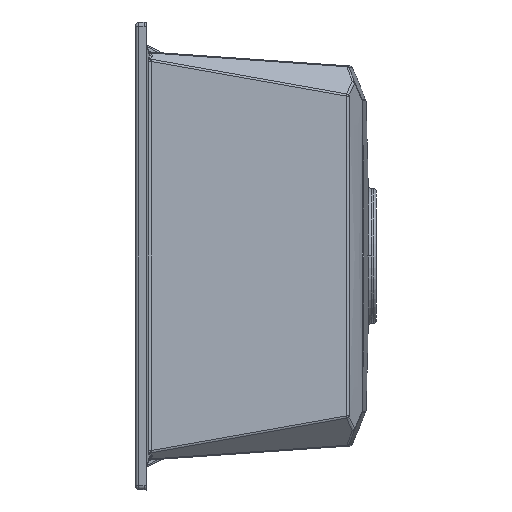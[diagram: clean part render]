
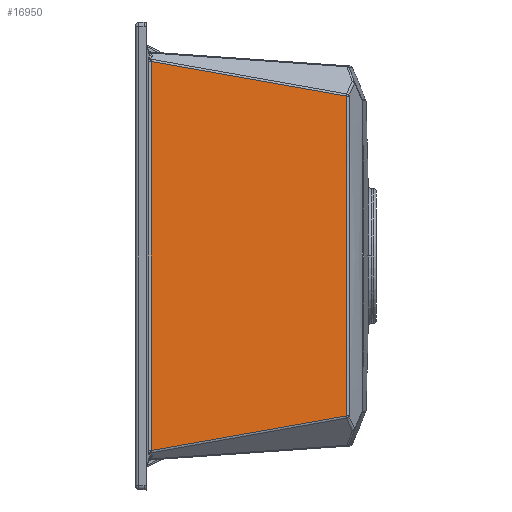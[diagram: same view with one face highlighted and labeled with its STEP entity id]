
A CAD part, left-side view. The second image highlights one B-rep face of the part: STEP entity #16950.
In plain terms, the highlighted planar face has unit normal (-0.998, -0.07, 0).
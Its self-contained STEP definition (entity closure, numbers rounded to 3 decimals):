
#155 = ORIENTED_EDGE ( 'NONE', *, *, #25490, .T. ) ;
#826 = CARTESIAN_POINT ( 'NONE',  ( 40.73, -186.634, -118.437 ) ) ;
#1353 = CARTESIAN_POINT ( 'NONE',  ( 40.73, -186.634, -316.563 ) ) ;
#1651 = B_SPLINE_CURVE_WITH_KNOTS ( 'NONE', 3,
 ( #20614, #1353, #3845, #7053, #826, #20255 ),
 .UNSPECIFIED., .F., .F.,
 ( 4, 2, 4 ),
 ( 0., 0.149, 0.297 ),
 .UNSPECIFIED. ) ;
#1654 = DIRECTION ( 'NONE',  ( -0.069, 0.982, 0.174 ) ) ;
#3845 = CARTESIAN_POINT ( 'NONE',  ( 40.762, -187.085, -267.032 ) ) ;
#4207 = CARTESIAN_POINT ( 'NONE',  ( 27.028, 9.314, -400.726 ) ) ;
#5357 = VERTEX_POINT ( 'NONE', #7572 ) ;
#5640 = VERTEX_POINT ( 'NONE', #6821 ) ;
#6821 = CARTESIAN_POINT ( 'NONE',  ( 40.681, -185.923, -366.091 ) ) ;
#6823 = FACE_OUTER_BOUND ( 'NONE', #16687, .T. ) ;
#7053 = CARTESIAN_POINT ( 'NONE',  ( 40.762, -187.085, -167.968 ) ) ;
#7572 = CARTESIAN_POINT ( 'NONE',  ( 27.994, -4.492, -398.277 ) ) ;
#8094 = DIRECTION ( 'NONE',  ( 0., 0., -1. ) ) ;
#11124 = ORIENTED_EDGE ( 'NONE', *, *, #27879, .T. ) ;
#12842 = CARTESIAN_POINT ( 'NONE',  ( 27.994, -4.492, -36.723 ) ) ;
#14351 = CARTESIAN_POINT ( 'NONE',  ( 40.681, -185.923, -68.909 ) ) ;
#16687 = EDGE_LOOP ( 'NONE', ( #155, #17287, #17903, #11124 ) ) ;
#16950 = ADVANCED_FACE ( 'NONE', ( #6823 ), #17691, .T. ) ;
#17174 = CARTESIAN_POINT ( 'NONE',  ( 27.019, 9.442, -400. ) ) ;
#17287 = ORIENTED_EDGE ( 'NONE', *, *, #34098, .T. ) ;
#17691 = PLANE ( 'NONE',  #29515 ) ;
#17865 = DIRECTION ( 'NONE',  ( -0.998, -0.07, 0. ) ) ;
#17903 = ORIENTED_EDGE ( 'NONE', *, *, #33588, .T. ) ;
#20255 = CARTESIAN_POINT ( 'NONE',  ( 40.681, -185.923, -68.909 ) ) ;
#20572 = CARTESIAN_POINT ( 'NONE',  ( 31.398, -53.167, -45.358 ) ) ;
#20614 = CARTESIAN_POINT ( 'NONE',  ( 40.681, -185.923, -366.091 ) ) ;
#20967 = VECTOR ( 'NONE', #8094, 1000. ) ;
#20984 = LINE ( 'NONE', #4207, #25432 ) ;
#21472 = LINE ( 'NONE', #26483, #20967 ) ;
#21673 = VERTEX_POINT ( 'NONE', #14351 ) ;
#23680 = VERTEX_POINT ( 'NONE', #12842 ) ;
#25432 = VECTOR ( 'NONE', #29037, 1000. ) ;
#25490 = EDGE_CURVE ( 'NONE', #5357, #5640, #20984, .T. ) ;
#25556 = DIRECTION ( 'NONE',  ( 0.07, -0.998, 0. ) ) ;
#26483 = CARTESIAN_POINT ( 'NONE',  ( 27.994, -4.492, -399.898 ) ) ;
#27879 = EDGE_CURVE ( 'NONE', #23680, #5357, #21472, .T. ) ;
#29037 = DIRECTION ( 'NONE',  ( 0.069, -0.982, 0.174 ) ) ;
#29319 = LINE ( 'NONE', #20572, #33582 ) ;
#29515 = AXIS2_PLACEMENT_3D ( 'NONE', #17174, #17865, #25556 ) ;
#33582 = VECTOR ( 'NONE', #1654, 1000. ) ;
#33588 = EDGE_CURVE ( 'NONE', #21673, #23680, #29319, .T. ) ;
#34098 = EDGE_CURVE ( 'NONE', #5640, #21673, #1651, .T. ) ;
